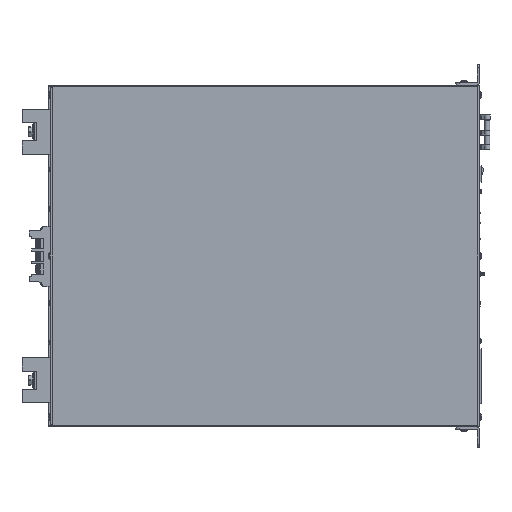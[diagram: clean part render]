
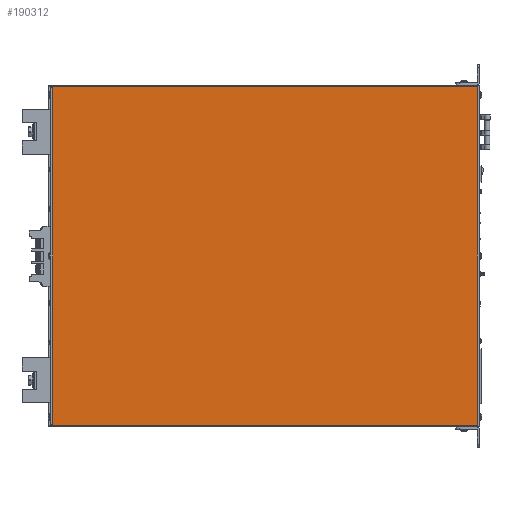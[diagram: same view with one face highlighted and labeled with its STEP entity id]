
A CAD part, front view. The second image highlights one B-rep face of the part: STEP entity #190312.
In plain terms, the highlighted planar face has unit normal (0, -1, 0).
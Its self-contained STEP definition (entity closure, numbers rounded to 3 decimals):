
#15758=PLANE('',#200563);
#28513=LINE('',#315670,#45389);
#28521=LINE('',#315705,#45397);
#28526=LINE('',#315716,#45402);
#28650=LINE('',#316051,#45526);
#28651=LINE('',#316053,#45527);
#28652=LINE('',#316054,#45528);
#45389=VECTOR('',#227152,0.394);
#45397=VECTOR('',#227196,0.394);
#45402=VECTOR('',#227207,0.394);
#45526=VECTOR('',#227549,0.394);
#45527=VECTOR('',#227550,0.394);
#45528=VECTOR('',#227551,0.394);
#58814=FACE_OUTER_BOUND('',#69379,.T.);
#69379=EDGE_LOOP('',(#155842,#155843,#155844,#155845,#155846,#155847));
#87153=VERTEX_POINT('',#315665);
#87154=VERTEX_POINT('',#315669);
#87163=VERTEX_POINT('',#315703);
#87166=VERTEX_POINT('',#315715);
#87268=VERTEX_POINT('',#316050);
#87269=VERTEX_POINT('',#316052);
#110983=EDGE_CURVE('',#87153,#87154,#28513,.T.);
#110998=EDGE_CURVE('',#87163,#87153,#28521,.T.);
#111003=EDGE_CURVE('',#87154,#87166,#28526,.T.);
#111170=EDGE_CURVE('',#87268,#87163,#28650,.T.);
#111171=EDGE_CURVE('',#87269,#87268,#28651,.T.);
#111172=EDGE_CURVE('',#87166,#87269,#28652,.T.);
#155842=ORIENTED_EDGE('',*,*,#111170,.F.);
#155843=ORIENTED_EDGE('',*,*,#111171,.F.);
#155844=ORIENTED_EDGE('',*,*,#111172,.F.);
#155845=ORIENTED_EDGE('',*,*,#111003,.F.);
#155846=ORIENTED_EDGE('',*,*,#110983,.F.);
#155847=ORIENTED_EDGE('',*,*,#110998,.F.);
#190312=ADVANCED_FACE('',(#58814),#15758,.F.);
#200563=AXIS2_PLACEMENT_3D('',#316049,#227547,#227548);
#227152=DIRECTION('',(0.,0.,1.));
#227196=DIRECTION('',(0.,0.,1.));
#227207=DIRECTION('',(0.,0.,1.));
#227547=DIRECTION('center_axis',(0.,1.,0.));
#227548=DIRECTION('ref_axis',(0.,0.,
1.));
#227549=DIRECTION('',(-1.,0.,0.));
#227550=DIRECTION('',(0.,0.,-1.));
#227551=DIRECTION('',(1.,0.,0.));
#315665=CARTESIAN_POINT('',(-20.905,-0.643,-18.824));
#315669=CARTESIAN_POINT('',(-20.905,-0.643,-1.973));
#315670=CARTESIAN_POINT('',(-20.905,-0.643,-18.863));
#315703=CARTESIAN_POINT('',(-20.905,-0.643,-18.863));
#315705=CARTESIAN_POINT('',(-20.905,-0.643,-18.863));
#315715=CARTESIAN_POINT('',(-20.905,-0.643,-1.934));
#315716=CARTESIAN_POINT('',(-20.905,-0.643,-18.863));
#316049=CARTESIAN_POINT('Origin',(-10.275,-0.643,
-10.398));
#316050=CARTESIAN_POINT('',(0.355,-0.643,-18.863));
#316051=CARTESIAN_POINT('',(0.355,-0.643,-18.863));
#316052=CARTESIAN_POINT('',(0.355,-0.643,-1.934));
#316053=CARTESIAN_POINT('',(0.355,-0.643,-1.875));
#316054=CARTESIAN_POINT('',(-20.905,-0.643,-1.934));
